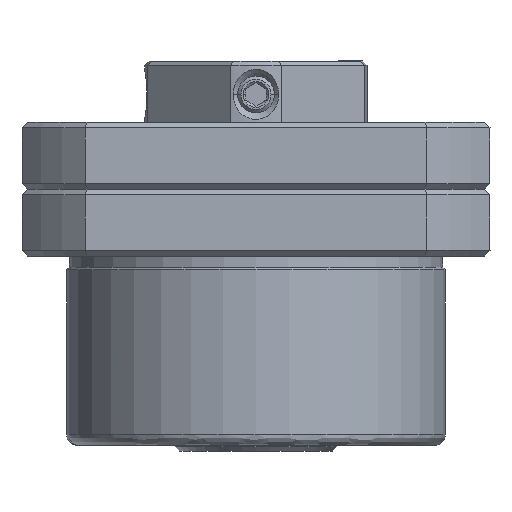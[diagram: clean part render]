
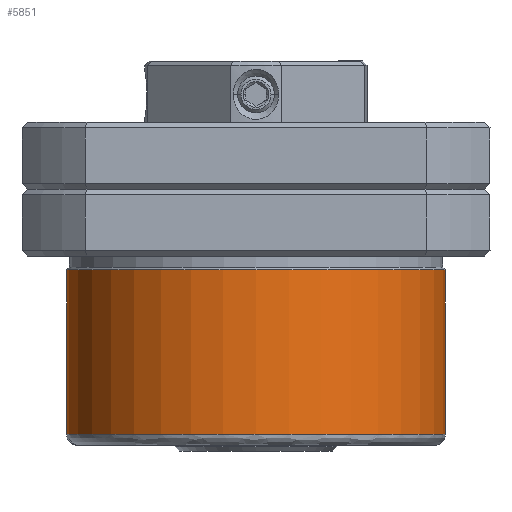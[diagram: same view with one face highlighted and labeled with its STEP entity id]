
A CAD part, front view. The second image highlights one B-rep face of the part: STEP entity #5851.
In plain terms, the highlighted cylindrical face has radius 17 mm (diameter 34 mm), a partial arc.
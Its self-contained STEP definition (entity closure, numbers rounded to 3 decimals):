
#58 = EDGE_CURVE ( 'NONE', #18798, #16007, #21333, .T. ) ;
#1051 = AXIS2_PLACEMENT_3D ( 'NONE', #24888, #5877, #7965 ) ;
#1811 = CARTESIAN_POINT ( 'NONE',  ( 0., 0., -24.15 ) ) ;
#2065 = EDGE_CURVE ( 'NONE', #19732, #7883, #15077, .T. ) ;
#2342 = LINE ( 'NONE', #17349, #19653 ) ;
#2710 = VECTOR ( 'NONE', #10316, 1000. ) ;
#5851 = ADVANCED_FACE ( 'NONE', ( #16489 ), #23941, .T. ) ;
#5877 = DIRECTION ( 'NONE',  ( 0., 0., -1. ) ) ;
#6045 = CARTESIAN_POINT ( 'NONE',  ( 0., 0., -22. ) ) ;
#6444 = ORIENTED_EDGE ( 'NONE', *, *, #2065, .F. ) ;
#6950 = AXIS2_PLACEMENT_3D ( 'NONE', #6045, #15235, #13158 ) ;
#7883 = VERTEX_POINT ( 'NONE', #27447 ) ;
#7965 = DIRECTION ( 'NONE',  ( -1., -0.001, 0. ) ) ;
#8226 = ORIENTED_EDGE ( 'NONE', *, *, #30073, .F. ) ;
#10316 = DIRECTION ( 'NONE',  ( 0., 0., 1. ) ) ;
#11679 = DIRECTION ( 'NONE',  ( 0., 0., 1. ) ) ;
#11696 = VERTEX_POINT ( 'NONE', #20116 ) ;
#11878 = CARTESIAN_POINT ( 'NONE',  ( -17., 0., -7.25 ) ) ;
#12523 = CARTESIAN_POINT ( 'NONE',  ( 0., 0., -7.25 ) ) ;
#13158 = DIRECTION ( 'NONE',  ( -1., -0.001, 0. ) ) ;
#14642 = DIRECTION ( 'NONE',  ( 0., 0., 1. ) ) ;
#14872 = ORIENTED_EDGE ( 'NONE', *, *, #17664, .T. ) ;
#15077 = CIRCLE ( 'NONE', #22296, 17. ) ;
#15235 = DIRECTION ( 'NONE',  ( 0., 0., -1. ) ) ;
#16007 = VERTEX_POINT ( 'NONE', #29215 ) ;
#16489 = FACE_OUTER_BOUND ( 'NONE', #28511, .T. ) ;
#16722 = EDGE_CURVE ( 'NONE', #11696, #18798, #25249, .T. ) ;
#17349 = CARTESIAN_POINT ( 'NONE',  ( 17., 0., -24.15 ) ) ;
#17551 = ORIENTED_EDGE ( 'NONE', *, *, #58, .F. ) ;
#17664 = EDGE_CURVE ( 'NONE', #11696, #7883, #2342, .T. ) ;
#18798 = VERTEX_POINT ( 'NONE', #26358 ) ;
#19653 = VECTOR ( 'NONE', #14642, 1000. ) ;
#19732 = VERTEX_POINT ( 'NONE', #11878 ) ;
#19904 = DIRECTION ( 'NONE',  ( 0., 0., 1. ) ) ;
#20116 = CARTESIAN_POINT ( 'NONE',  ( 17., 0., -22. ) ) ;
#21333 = CIRCLE ( 'NONE', #6950, 17. ) ;
#21479 = ORIENTED_EDGE ( 'NONE', *, *, #16722, .F. ) ;
#22296 = AXIS2_PLACEMENT_3D ( 'NONE', #12523, #19904, #29779 ) ;
#22301 = DIRECTION ( 'NONE',  ( 1., 0., 0. ) ) ;
#22439 = CARTESIAN_POINT ( 'NONE',  ( -17., 0., -24.15 ) ) ;
#23502 = AXIS2_PLACEMENT_3D ( 'NONE', #1811, #11679, #22301 ) ;
#23941 = CYLINDRICAL_SURFACE ( 'NONE', #23502, 17. ) ;
#24888 = CARTESIAN_POINT ( 'NONE',  ( 0., 0., -22. ) ) ;
#25249 = CIRCLE ( 'NONE', #1051, 17. ) ;
#26358 = CARTESIAN_POINT ( 'NONE',  ( -17., -0.009, -22. ) ) ;
#27447 = CARTESIAN_POINT ( 'NONE',  ( 17., 0., -7.25 ) ) ;
#28511 = EDGE_LOOP ( 'NONE', ( #8226, #17551, #21479, #14872, #6444 ) ) ;
#29215 = CARTESIAN_POINT ( 'NONE',  ( -17., 0., -22. ) ) ;
#29779 = DIRECTION ( 'NONE',  ( 0., -1., 0. ) ) ;
#29860 = LINE ( 'NONE', #22439, #2710 ) ;
#30073 = EDGE_CURVE ( 'NONE', #16007, #19732, #29860, .T. ) ;
